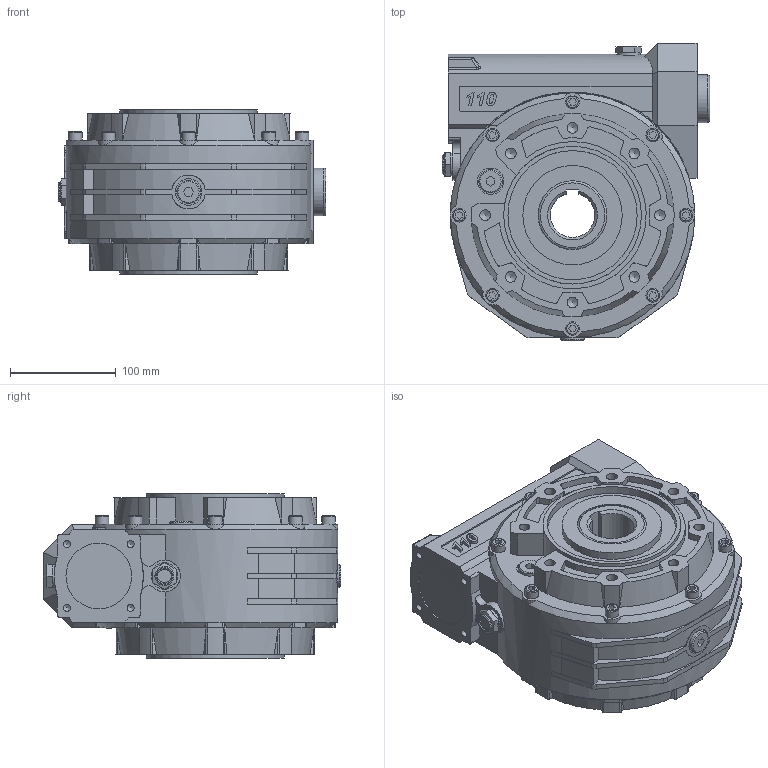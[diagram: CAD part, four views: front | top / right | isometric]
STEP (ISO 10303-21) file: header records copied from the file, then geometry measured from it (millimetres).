
FILE_DESCRIPTION( ( 'Unknown' ), '1' );
FILE_NAME( 'E:/services/configuratordownloads/customers/HYDROMEC/VSF/download/AEE6328DFCA5272241D1C5CC5D2BD1EE/STEP/AEE6328DFCA5272241D1C5CC5D2BD1EE.3d.stp', 'Unknown', ( 'Unknown' ), ( 'Unknown' ), 'PSStep 10.1', 'Unknown', ' ' );
FILE_SCHEMA( ( 'AUTOMOTIVE_DESIGN { 1 0 10303 214 1 1 1 1 }' ) );
Length unit declared in the file: millimetre
Products named in the file (1): 1108800N
Bounding box: 252.5 x 281 x 155 mm (x, y, z)
Volume: 6334031.4 mm3; surface area: 304319.7 mm2
Topology: 1 solids, 1 shells, 771 faces, 2052 edges, 1346 vertices
Faces by surface type: plane 401, cylinder 269, cone 62, extrusion 16, torus 13, bspline 8, sphere 2
Full cylindrical faces by diameter (mm): 1.5 x1, 4.917 x6, 6.647 x4, 10.106 x16, 12.8 x8, 13 x1, 18 x1, 21 x1, 21.5 x1, 22 x2, 25 x4, 45 x1, 62 x1, 65 x2, 75 x1, 85 x1, 93.8 x1, 94 x1, 122 x2, 130 x2, 138 x1, 231 x1
Entity records: 32930 total; most frequent: CARTESIAN_POINT 6086, DIRECTION 3801, ORIENTED_EDGE 3760, EDGE_CURVE 1880, AXIS2_PLACEMENT_3D 1369, VERTEX_POINT 1303, PRESENTATION_STYLE_ASSIGNMENT 1302, COLOUR_RGB 1302
